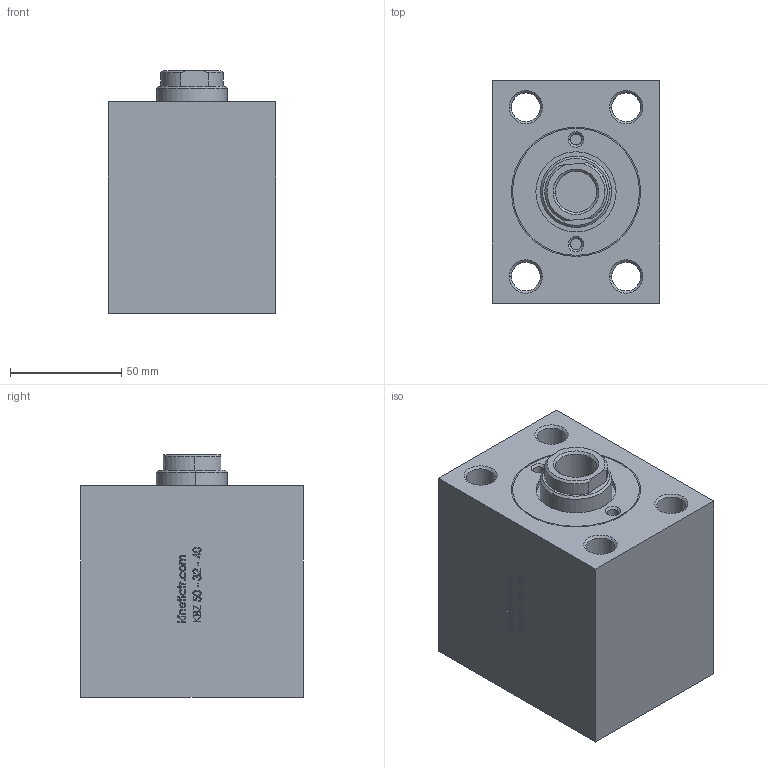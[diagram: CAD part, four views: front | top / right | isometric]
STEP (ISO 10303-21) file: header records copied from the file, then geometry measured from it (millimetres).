
FILE_DESCRIPTION (( 'STEP AP214' ), '1' );
FILE_NAME ('KBZ_02_50_32_30.STEP', '2018-12-29T15:45:56', ( '' ), ( '' ), 'SwSTEP 2.0', 'SolidWorks 2018', '' );
FILE_SCHEMA (( 'AUTOMOTIVE_DESIGN' ));
Length unit declared in the file: millimetre
Products named in the file (5): 50-32-40-GOVDE; KBZ_02_50_32_30; KBZ_50-32_ON_KAPAK; KBZ_50_PÝSTON; 32_M尳
Assembly tree (4 placements, depth 2):
  KBZ_02_50_32_30
    50-32-40-GOVDE
    32_M尳
    KBZ_50_PÝSTON
    KBZ_50-32_ON_KAPAK
Bounding box: 75 x 100 x 109 mm (x, y, z)
Volume: 601032.7 mm3; surface area: 111739.9 mm2
Topology: 4 solids, 4 shells, 481 faces, 1177 edges, 760 vertices
Faces by surface type: plane 211, bspline 124, cone 73, cylinder 73
Entity records: 21105 total; most frequent: CARTESIAN_POINT 10069, ORIENTED_EDGE 2354, DIRECTION 1864, EDGE_CURVE 1177, VERTEX_POINT 760, LINE 706, VECTOR 706, AXIS2_PLACEMENT_3D 579
